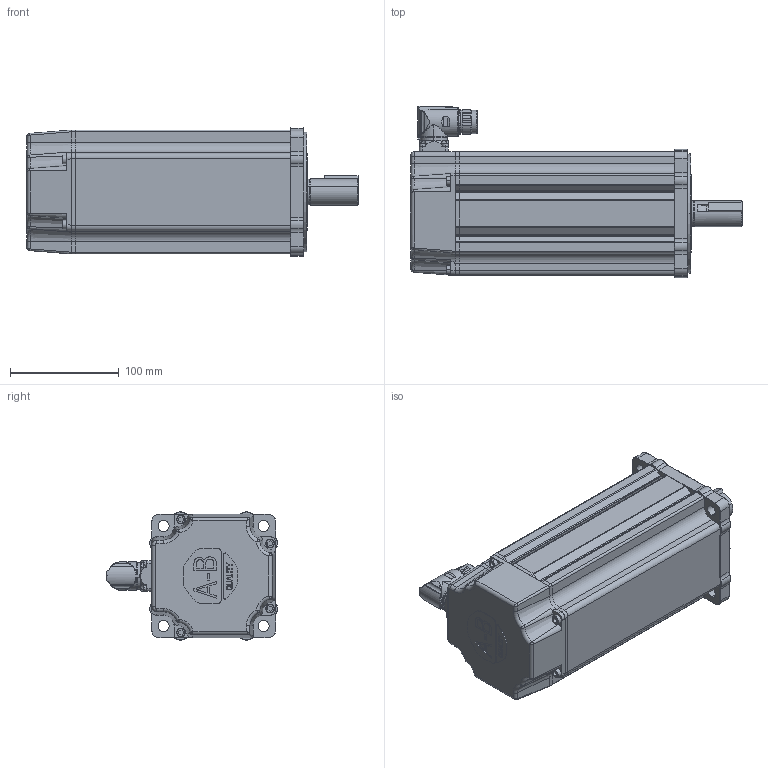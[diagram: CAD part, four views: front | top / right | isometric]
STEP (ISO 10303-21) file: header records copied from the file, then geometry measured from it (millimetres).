
FILE_DESCRIPTION (( 'STEP AP214' ), '1' );
FILE_NAME ('Rockwell Automation-$PARTNUMBER.STEP', '2014-05-01T13:39:05', ( 'Windows User' ), ( '' ), 'SwSTEP 2.0', 'SolidWorks 2014', '' );
FILE_SCHEMA (( 'AUTOMOTIVE_DESIGN' ));
Length unit declared in the file: inch
Products named in the file (4): Rockwell Automation-$PARTNUMBER_Rockwell Automation-VPF-x1304x-xJx4xx_Connector; Rockwell Automation-$PARTNUMBER_Rockwell Automation-VPF-x1304x-xJx4xx_VPF-130-Shaft_1304-SHAFT-KEYED-BRAKE; Rockwell Automation-$PARTNUMBER_Rockwell Automation-VPF-x1304x-xJx4xx_VPF-130-Body_1304-Brake; Rockwell Automation-$PARTNUMBER
Assembly tree (3 placements, depth 2):
  Rockwell Automation-$PARTNUMBER
    Rockwell Automation-$PARTNUMBER_Rockwell Automation-VPF-x1304x-xJx4xx_VPF-130-Body_1304-Brake
    Rockwell Automation-$PARTNUMBER_Rockwell Automation-VPF-x1304x-xJx4xx_VPF-130-Shaft_1304-SHAFT-KEYED-BRAKE
    Rockwell Automation-$PARTNUMBER_Rockwell Automation-VPF-x1304x-xJx4xx_Connector
Bounding box: 305.03 x 157.46 x 117.86 mm (x, y, z)
Volume: 1410202.4 mm3; surface area: 292892.9 mm2
Topology: 8 solids, 8 shells, 1127 faces, 2759 edges, 1734 vertices
Faces by surface type: plane 485, cylinder 363, cone 127, bspline 94, torus 40, sphere 18
Entity records: 55934 total; most frequent: CARTESIAN_POINT 15267, DIRECTION 5514, ORIENTED_EDGE 5478, EDGE_CURVE 2739, AXIS2_PLACEMENT_3D 1992, VERTEX_POINT 1734, LINE 1530, VECTOR 1530
